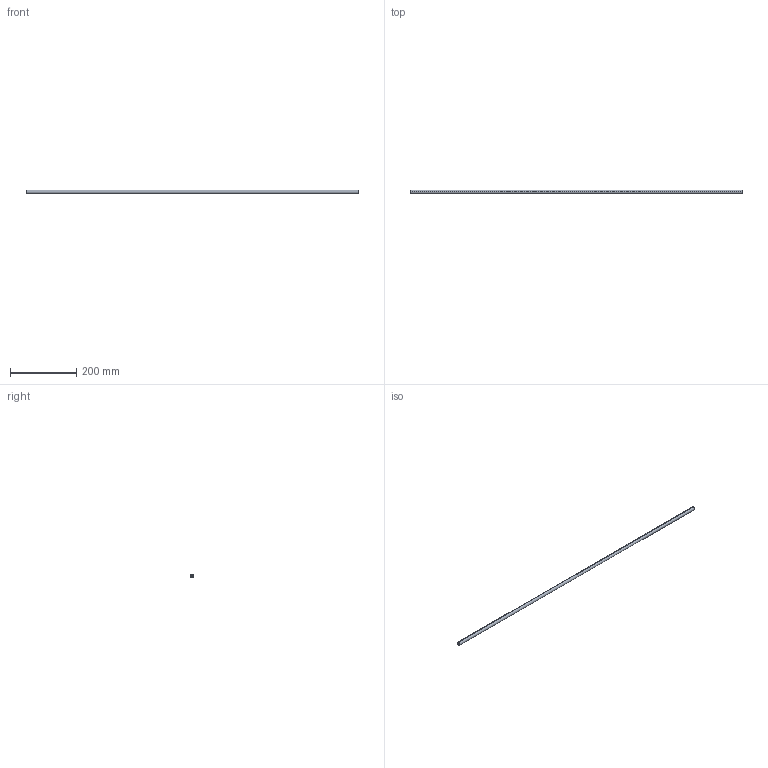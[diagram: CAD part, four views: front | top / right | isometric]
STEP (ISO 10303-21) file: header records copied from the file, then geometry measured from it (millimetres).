
FILE_DESCRIPTION (( 'STEP AP214' ), '1' );
FILE_NAME ('SGP-6A.STEP', '2022-03-29T23:04:37', ( 'ASIS User' ), ( 'ASIS User' ), 'SwSTEP 2.0', 'SolidWorks 2022', '' );
FILE_SCHEMA (( 'AUTOMOTIVE_DESIGN' ));
Length unit declared in the file: millimetre
Products named in the file (1): SGP-6A
Bounding box: 1000 x 10.5 x 10.5 mm (x, y, z)
Volume: 53407.1 mm3; surface area: 53513.9 mm2
Topology: 1 solids, 1 shells, 6 faces, 12 edges, 8 vertices
Faces by surface type: cylinder 4, plane 2
Entity records: 202 total; most frequent: DIRECTION 34, CARTESIAN_POINT 27, ORIENTED_EDGE 24, AXIS2_PLACEMENT_3D 15, EDGE_CURVE 12, EDGE_LOOP 8, CIRCLE 8, VERTEX_POINT 8
